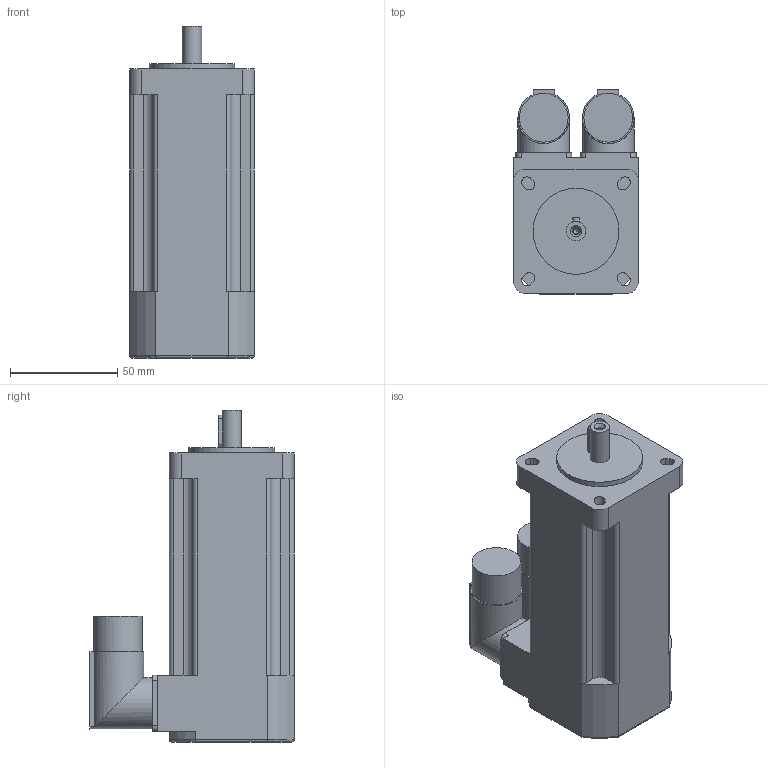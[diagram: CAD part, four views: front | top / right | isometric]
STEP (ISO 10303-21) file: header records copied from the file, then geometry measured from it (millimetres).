
FILE_DESCRIPTION(/* description */ (''),/* implementation_level */ '2;1');
FILE_NAME(/* name */ 'C:\Users\Pastrello_Ylenia\Desktop\Modelli 3D Serad\B28Q\Resolver\Resolver NoBrake\B28E2Qxx6A052000.stp',/* time_stamp */ '2015-06-10T17:10:55+02:00',/* author */ ('Pastrello_Ylenia'),/* organization */ (''),/* preprocessor_version */ 'ST-DEVELOPER v15.6',/* originating_system */ 'Autodesk Inventor 2015',/* authorisation */ '');
FILE_SCHEMA (('AUTOMOTIVE_DESIGN { 1 0 10303 214 3 1 1 }'));
Length unit declared in the file: millimetre
Products named in the file (1): B28E2Qxx6A052000
Bounding box: 58 x 95 x 154.5 mm (x, y, z)
Volume: 468663.1 mm3; surface area: 48759 mm2
Topology: 1 solids, 1 shells, 140 faces, 374 edges, 243 vertices
Faces by surface type: plane 72, cylinder 62, torus 4, cone 2
Full cylindrical faces by diameter (mm): 2.5 x1, 3.2 x1, 9 x1, 22.7 x2, 24 x2, 40 x1
Entity records: 4441 total; most frequent: CARTESIAN_POINT 879, DIRECTION 757, ORIENTED_EDGE 722, EDGE_CURVE 360, AXIS2_PLACEMENT_3D 268, VERTEX_POINT 240, LINE 221, VECTOR 221
